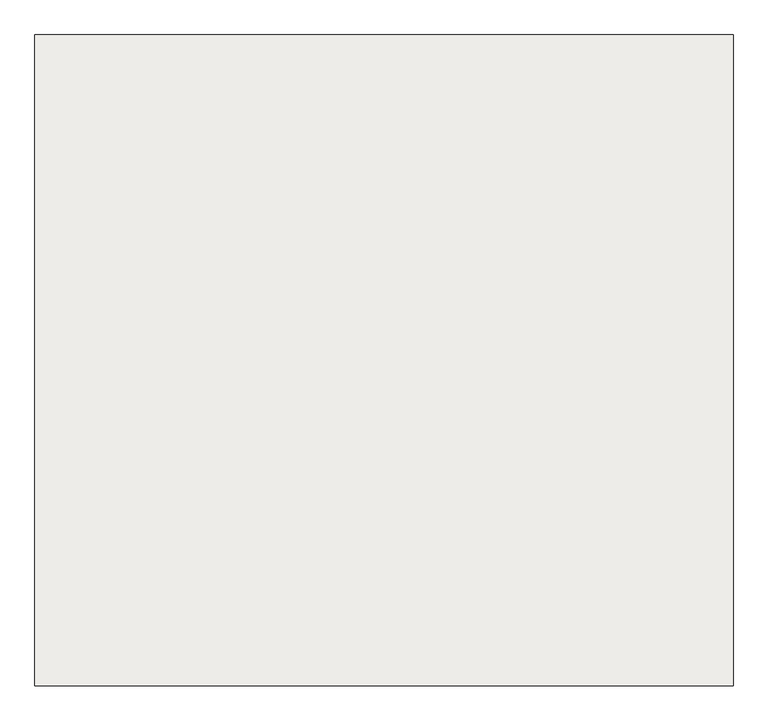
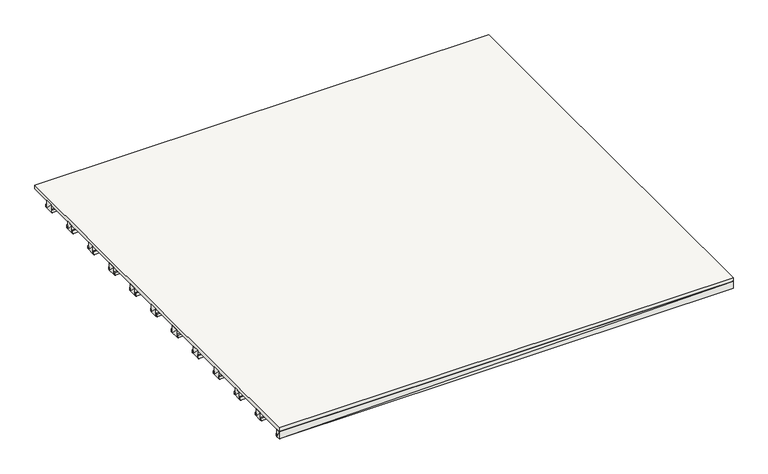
"""IFC4 building model written with IfcOpenShell, lengths in millimetres: slab geometry."""

from ifc_helpers import new_model, si_unit, frame, origin, place, context, project, spatial, polyline, outline, extrude, faceted_brep, source, transform, mapped, element, save


def slab_85f86137(model_context):
    return source(origin(), model_context, "Body", "SolidModel", [
        faceted_brep([(-2377.8, 1258.7, -120.0), (2377.695, 1258.7, -120.0), (2377.695, 1243.7, -120.0), (-2377.8, 1243.7, -120.0), (-2377.8, 1243.7, -90.0), (2377.695, 1243.7, -90.0), (2377.695, 1258.7, -90.0), (-2377.8, 1258.7, -90.0)], [[[0, 1, 2, 3]], [[4, 5, 6, 7]], [[4, 3, 5]], [[3, 2, 5]], [[5, 2, 6]], [[2, 1, 6]], [[6, 1, 7]], [[1, 0, 7]], [[7, 0, 4]], [[0, 3, 4]]]),
        faceted_brep([(-2377.8, -2176.3, -120.0), (2377.695, -2176.3, -120.0), (2377.695, -2216.295, -120.0), (-2377.8, -2216.295, -120.0), (-2377.8, -2216.295, -40.0), (2377.695, -2216.295, -40.0), (2377.695, -2176.3, -40.0), (-2377.8, -2176.3, -40.0)], [[[0, 1, 2, 3]], [[4, 5, 6, 7]], [[4, 3, 5]], [[3, 2, 5]], [[5, 2, 6]], [[2, 1, 6]], [[6, 1, 7]], [[1, 0, 7]], [[7, 0, 4]], [[0, 3, 4]]]),
        faceted_brep([(-2377.8, 103.7, -120.0), (2377.695, 103.7, -120.0), (2377.695, 23.7, -120.0), (-2377.8, 23.7, -120.0), (-2377.8, 23.7, -40.0), (2377.695, 23.7, -40.0), (2377.695, 103.7, -40.0), (-2377.8, 103.7, -40.0)], [[[0, 1, 2, 3]], [[4, 5, 6, 7]], [[4, 3, 5]], [[3, 2, 5]], [[5, 2, 6]], [[2, 1, 6]], [[6, 1, 7]], [[1, 0, 7]], [[7, 0, 4]], [[0, 3, 4]]]),
        faceted_brep([(-2377.8, -641.3, -120.0), (2377.695, -641.3, -120.0), (2377.695, -656.3, -120.0), (-2377.8, -656.3, -120.0), (-2377.8, -656.3, -90.0), (2377.695, -656.3, -90.0), (2377.695, -641.3, -90.0), (-2377.8, -641.3, -90.0)], [[[0, 1, 2, 3]], [[4, 5, 6, 7]], [[4, 3, 5]], [[3, 2, 5]], [[5, 2, 6]], [[2, 1, 6]], [[6, 1, 7]], [[1, 0, 7]], [[7, 0, 4]], [[0, 3, 4]]]),
        faceted_brep([(-2377.8, -736.3, -120.0), (2377.695, -736.3, -120.0), (2377.695, -751.3, -120.0), (-2377.8, -751.3, -120.0), (-2377.8, -751.3, -90.0), (2377.695, -751.3, -90.0), (2377.695, -736.3, -90.0), (-2377.8, -736.3, -90.0)], [[[0, 1, 2, 3]], [[4, 5, 6, 7]], [[4, 3, 5]], [[3, 2, 5]], [[5, 2, 6]], [[2, 1, 6]], [[6, 1, 7]], [[1, 0, 7]], [[7, 0, 4]], [[0, 3, 4]]]),
        faceted_brep([(-2377.8, -1876.3, -120.0), (2377.695, -1876.3, -120.0), (2377.695, -1891.3, -120.0), (-2377.8, -1891.3, -120.0), (-2377.8, -1891.3, -90.0), (2377.695, -1891.3, -90.0), (2377.695, -1876.3, -90.0), (-2377.8, -1876.3, -90.0)], [[[0, 1, 2, 3]], [[4, 5, 6, 7]], [[4, 3, 5]], [[3, 2, 5]], [[5, 2, 6]], [[2, 1, 6]], [[6, 1, 7]], [[1, 0, 7]], [[7, 0, 4]], [[0, 3, 4]]]),
        faceted_brep([(-2377.8, 783.7, -120.0), (2377.695, 783.7, -120.0), (2377.695, 768.7, -120.0), (-2377.8, 768.7, -120.0), (-2377.8, 768.7, -90.0), (2377.695, 768.7, -90.0), (2377.695, 783.7, -90.0), (-2377.8, 783.7, -90.0)], [[[0, 1, 2, 3]], [[4, 5, 6, 7]], [[4, 3, 5]], [[3, 2, 5]], [[5, 2, 6]], [[2, 1, 6]], [[6, 1, 7]], [[1, 0, 7]], [[7, 0, 4]], [[0, 3, 4]]]),
        faceted_brep([(-2377.8, 878.7, -120.0), (2377.695, 878.7, -120.0), (2377.695, 863.7, -120.0), (-2377.8, 863.7, -120.0), (-2377.8, 863.7, -90.0), (2377.695, 863.7, -90.0), (2377.695, 878.7, -90.0), (-2377.8, 878.7, -90.0)], [[[0, 1, 2, 3]], [[4, 5, 6, 7]], [[4, 3, 5]], [[3, 2, 5]], [[5, 2, 6]], [[2, 1, 6]], [[6, 1, 7]], [[1, 0, 7]], [[7, 0, 4]], [[0, 3, 4]]]),
        faceted_brep([(-2377.8, -1401.3, -120.0), (2377.695, -1401.3, -120.0), (2377.695, -1416.3, -120.0), (-2377.8, -1416.3, -120.0), (-2377.8, -1416.3, -90.0), (2377.695, -1416.3, -90.0), (2377.695, -1401.3, -90.0), (-2377.8, -1401.3, -90.0)], [[[0, 1, 2, 3]], [[4, 5, 6, 7]], [[4, 3, 5]], [[3, 2, 5]], [[5, 2, 6]], [[2, 1, 6]], [[6, 1, 7]], [[1, 0, 7]], [[7, 0, 4]], [[0, 3, 4]]]),
        faceted_brep([(-2377.8, 1638.7, -120.0), (2377.695, 1638.7, -120.0), (2377.695, 1623.7, -120.0), (-2377.8, 1623.7, -120.0), (-2377.8, 1623.7, -90.0), (2377.695, 1623.7, -90.0), (2377.695, 1638.7, -90.0), (-2377.8, 1638.7, -90.0)], [[[0, 1, 2, 3]], [[4, 5, 6, 7]], [[4, 3, 5]], [[3, 2, 5]], [[5, 2, 6]], [[2, 1, 6]], [[6, 1, 7]], [[1, 0, 7]], [[7, 0, 4]], [[0, 3, 4]]]),
        faceted_brep([(-2377.8, 483.7, -120.0), (2377.695, 483.7, -120.0), (2377.695, 403.7, -120.0), (-2377.8, 403.7, -120.0), (-2377.8, 403.7, -40.0), (2377.695, 403.7, -40.0), (2377.695, 483.7, -40.0), (-2377.8, 483.7, -40.0)], [[[0, 1, 2, 3]], [[4, 5, 6, 7]], [[4, 3, 5]], [[3, 2, 5]], [[5, 2, 6]], [[2, 1, 6]], [[6, 1, 7]], [[1, 0, 7]], [[7, 0, 4]], [[0, 3, 4]]]),
        faceted_brep([(-2377.8, 498.7, -120.0), (2377.695, 498.7, -120.0), (2377.695, 483.7, -120.0), (-2377.8, 483.7, -120.0), (-2377.8, 483.7, -90.0), (2377.695, 483.7, -90.0), (2377.695, 498.7, -90.0), (-2377.8, 498.7, -90.0)], [[[0, 1, 2, 3]], [[4, 5, 6, 7]], [[4, 3, 5]], [[3, 2, 5]], [[5, 2, 6]], [[2, 1, 6]], [[6, 1, 7]], [[1, 0, 7]], [[7, 0, 4]], [[0, 3, 4]]]),
        faceted_brep([(-2377.8, -1496.3, -120.0), (2377.695, -1496.3, -120.0), (2377.695, -1511.3, -120.0), (-2377.8, -1511.3, -120.0), (-2377.8, -1511.3, -90.0), (2377.695, -1511.3, -90.0), (2377.695, -1496.3, -90.0), (-2377.8, -1496.3, -90.0)], [[[0, 1, 2, 3]], [[4, 5, 6, 7]], [[4, 3, 5]], [[3, 2, 5]], [[5, 2, 6]], [[2, 1, 6]], [[6, 1, 7]], [[1, 0, 7]], [[7, 0, 4]], [[0, 3, 4]]]),
        faceted_brep([(-2377.8, 403.7, -120.0), (2377.695, 403.7, -120.0), (2377.695, 388.7, -120.0), (-2377.8, 388.7, -120.0), (-2377.8, 388.7, -90.0), (2377.695, 388.7, -90.0), (2377.695, 403.7, -90.0), (-2377.8, 403.7, -90.0)], [[[0, 1, 2, 3]], [[4, 5, 6, 7]], [[4, 3, 5]], [[3, 2, 5]], [[5, 2, 6]], [[2, 1, 6]], [[6, 1, 7]], [[1, 0, 7]], [[7, 0, 4]], [[0, 3, 4]]]),
        faceted_brep([(-2377.8, -276.3, -120.0), (2377.695, -276.3, -120.0), (2377.695, -356.3, -120.0), (-2377.8, -356.3, -120.0), (-2377.8, -356.3, -40.0), (2377.695, -356.3, -40.0), (2377.695, -276.3, -40.0), (-2377.8, -276.3, -40.0)], [[[0, 1, 2, 3]], [[4, 5, 6, 7]], [[4, 3, 5]], [[3, 2, 5]], [[5, 2, 6]], [[2, 1, 6]], [[6, 1, 7]], [[1, 0, 7]], [[7, 0, 4]], [[0, 3, 4]]]),
        faceted_brep([(-2377.8, 2003.7, -120.0), (2377.695, 2003.7, -120.0), (2377.695, 1923.7, -120.0), (-2377.8, 1923.7, -120.0), (-2377.8, 1923.7, -40.0), (2377.695, 1923.7, -40.0), (2377.695, 2003.7, -40.0), (-2377.8, 2003.7, -40.0)], [[[0, 1, 2, 3]], [[4, 5, 6, 7]], [[4, 3, 5]], [[3, 2, 5]], [[5, 2, 6]], [[2, 1, 6]], [[6, 1, 7]], [[1, 0, 7]], [[7, 0, 4]], [[0, 3, 4]]]),
        faceted_brep([(-2377.8, -356.3, -120.0), (2377.695, -356.3, -120.0), (2377.695, -371.3, -120.0), (-2377.8, -371.3, -120.0), (-2377.8, -371.3, -90.0), (2377.695, -371.3, -90.0), (2377.695, -356.3, -90.0), (-2377.8, -356.3, -90.0)], [[[0, 1, 2, 3]], [[4, 5, 6, 7]], [[4, 3, 5]], [[3, 2, 5]], [[5, 2, 6]], [[2, 1, 6]], [[6, 1, 7]], [[1, 0, 7]], [[7, 0, 4]], [[0, 3, 4]]]),
        faceted_brep([(-2377.8, 1543.7, -120.0), (2377.695, 1543.7, -120.0), (2377.695, 1528.7, -120.0), (-2377.8, 1528.7, -120.0), (-2377.8, 1528.7, -90.0), (2377.695, 1528.7, -90.0), (2377.695, 1543.7, -90.0), (-2377.8, 1543.7, -90.0)], [[[0, 1, 2, 3]], [[4, 5, 6, 7]], [[4, 3, 5]], [[3, 2, 5]], [[5, 2, 6]], [[2, 1, 6]], [[6, 1, 7]], [[1, 0, 7]], [[7, 0, 4]], [[0, 3, 4]]]),
        faceted_brep([(-2377.8, -1781.3, -120.0), (2377.695, -1781.3, -120.0), (2377.695, -1796.3, -120.0), (-2377.8, -1796.3, -120.0), (-2377.8, -1796.3, -90.0), (2377.695, -1796.3, -90.0), (2377.695, -1781.3, -90.0), (-2377.8, -1781.3, -90.0)], [[[0, 1, 2, 3]], [[4, 5, 6, 7]], [[4, 3, 5]], [[3, 2, 5]], [[5, 2, 6]], [[2, 1, 6]], [[6, 1, 7]], [[1, 0, 7]], [[7, 0, 4]], [[0, 3, 4]]]),
        faceted_brep([(-2377.8, -656.3, -120.0), (2377.695, -656.3, -120.0), (2377.695, -736.3, -120.0), (-2377.8, -736.3, -120.0), (-2377.8, -736.3, -40.0), (2377.695, -736.3, -40.0), (2377.695, -656.3, -40.0), (-2377.8, -656.3, -40.0)], [[[0, 1, 2, 3]], [[4, 5, 6, 7]], [[4, 3, 5]], [[3, 2, 5]], [[5, 2, 6]], [[2, 1, 6]], [[6, 1, 7]], [[1, 0, 7]], [[7, 0, 4]], [[0, 3, 4]]]),
        faceted_brep([(-2377.8, -261.3, -120.0), (2377.695, -261.3, -120.0), (2377.695, -276.3, -120.0), (-2377.8, -276.3, -120.0), (-2377.8, -276.3, -90.0), (2377.695, -276.3, -90.0), (2377.695, -261.3, -90.0), (-2377.8, -261.3, -90.0)], [[[0, 1, 2, 3]], [[4, 5, 6, 7]], [[4, 3, 5]], [[3, 2, 5]], [[5, 2, 6]], [[2, 1, 6]], [[6, 1, 7]], [[1, 0, 7]], [[7, 0, 4]], [[0, 3, 4]]]),
        faceted_brep([(-2377.8, -1416.3, -120.0), (2377.695, -1416.3, -120.0), (2377.695, -1496.3, -120.0), (-2377.8, -1496.3, -120.0), (-2377.8, -1496.3, -40.0), (2377.695, -1496.3, -40.0), (2377.695, -1416.3, -40.0), (-2377.8, -1416.3, -40.0)], [[[0, 1, 2, 3]], [[4, 5, 6, 7]], [[4, 3, 5]], [[3, 2, 5]], [[5, 2, 6]], [[2, 1, 6]], [[6, 1, 7]], [[1, 0, 7]], [[7, 0, 4]], [[0, 3, 4]]]),
        faceted_brep([(-2377.8, 1623.7, -120.0), (2377.695, 1623.7, -120.0), (2377.695, 1543.7, -120.0), (-2377.8, 1543.7, -120.0), (-2377.8, 1543.7, -40.0), (2377.695, 1543.7, -40.0), (2377.695, 1623.7, -40.0), (-2377.8, 1623.7, -40.0)], [[[0, 1, 2, 3]], [[4, 5, 6, 7]], [[4, 3, 5]], [[3, 2, 5]], [[5, 2, 6]], [[2, 1, 6]], [[6, 1, 7]], [[1, 0, 7]], [[7, 0, 4]], [[0, 3, 4]]]),
        faceted_brep([(-2377.8, -1116.3, -120.0), (2377.695, -1116.3, -120.0), (2377.695, -1131.3, -120.0), (-2377.8, -1131.3, -120.0), (-2377.8, -1131.3, -90.0), (2377.695, -1131.3, -90.0), (2377.695, -1116.3, -90.0), (-2377.8, -1116.3, -90.0)], [[[0, 1, 2, 3]], [[4, 5, 6, 7]], [[4, 3, 5]], [[3, 2, 5]], [[5, 2, 6]], [[2, 1, 6]], [[6, 1, 7]], [[1, 0, 7]], [[7, 0, 4]], [[0, 3, 4]]]),
        faceted_brep([(-2377.8, 1923.7, -120.0), (2377.695, 1923.7, -120.0), (2377.695, 1908.7, -120.0), (-2377.8, 1908.7, -120.0), (-2377.8, 1908.7, -90.0), (2377.695, 1908.7, -90.0), (2377.695, 1923.7, -90.0), (-2377.8, 1923.7, -90.0)], [[[0, 1, 2, 3]], [[4, 5, 6, 7]], [[4, 3, 5]], [[3, 2, 5]], [[5, 2, 6]], [[2, 1, 6]], [[6, 1, 7]], [[1, 0, 7]], [[7, 0, 4]], [[0, 3, 4]]]),
        faceted_brep([(-2377.8, 2018.7, -120.0), (2377.695, 2018.7, -120.0), (2377.695, 2003.7, -120.0), (-2377.8, 2003.7, -120.0), (-2377.8, 2003.7, -90.0), (2377.695, 2003.7, -90.0), (2377.695, 2018.7, -90.0), (-2377.8, 2018.7, -90.0)], [[[0, 1, 2, 3]], [[4, 5, 6, 7]], [[4, 3, 5]], [[3, 2, 5]], [[5, 2, 6]], [[2, 1, 6]], [[6, 1, 7]], [[1, 0, 7]], [[7, 0, 4]], [[0, 3, 4]]]),
        faceted_brep([(-2377.8, -1021.3, -120.0), (2377.695, -1021.3, -120.0), (2377.695, -1036.3, -120.0), (-2377.8, -1036.3, -120.0), (-2377.8, -1036.3, -90.0), (2377.695, -1036.3, -90.0), (2377.695, -1021.3, -90.0), (-2377.8, -1021.3, -90.0)], [[[0, 1, 2, 3]], [[4, 5, 6, 7]], [[4, 3, 5]], [[3, 2, 5]], [[5, 2, 6]], [[2, 1, 6]], [[6, 1, 7]], [[1, 0, 7]], [[7, 0, 4]], [[0, 3, 4]]]),
        faceted_brep([(-2377.8, 1243.7, -120.0), (2377.695, 1243.7, -120.0), (2377.695, 1163.7, -120.0), (-2377.8, 1163.7, -120.0), (-2377.8, 1163.7, -40.0), (2377.695, 1163.7, -40.0), (2377.695, 1243.7, -40.0), (-2377.8, 1243.7, -40.0)], [[[0, 1, 2, 3]], [[4, 5, 6, 7]], [[4, 3, 5]], [[3, 2, 5]], [[5, 2, 6]], [[2, 1, 6]], [[6, 1, 7]], [[1, 0, 7]], [[7, 0, 4]], [[0, 3, 4]]]),
        faceted_brep([(-2377.8, 118.7, -120.0), (2377.695, 118.7, -120.0), (2377.695, 103.7, -120.0), (-2377.8, 103.7, -120.0), (-2377.8, 103.7, -90.0), (2377.695, 103.7, -90.0), (2377.695, 118.7, -90.0), (-2377.8, 118.7, -90.0)], [[[0, 1, 2, 3]], [[4, 5, 6, 7]], [[4, 3, 5]], [[3, 2, 5]], [[5, 2, 6]], [[2, 1, 6]], [[6, 1, 7]], [[1, 0, 7]], [[7, 0, 4]], [[0, 3, 4]]]),
        faceted_brep([(-2377.8, 23.7, -120.0), (2377.695, 23.7, -120.0), (2377.695, 8.7, -120.0), (-2377.8, 8.7, -120.0), (-2377.8, 8.7, -90.0), (2377.695, 8.7, -90.0), (2377.695, 23.7, -90.0), (-2377.8, 23.7, -90.0)], [[[0, 1, 2, 3]], [[4, 5, 6, 7]], [[4, 3, 5]], [[3, 2, 5]], [[5, 2, 6]], [[2, 1, 6]], [[6, 1, 7]], [[1, 0, 7]], [[7, 0, 4]], [[0, 3, 4]]]),
        faceted_brep([(-2377.8, -1796.3, -120.0), (2377.695, -1796.3, -120.0), (2377.695, -1876.3, -120.0), (-2377.8, -1876.3, -120.0), (-2377.8, -1876.3, -40.0), (2377.695, -1876.3, -40.0), (2377.695, -1796.3, -40.0), (-2377.8, -1796.3, -40.0)], [[[0, 1, 2, 3]], [[4, 5, 6, 7]], [[4, 3, 5]], [[3, 2, 5]], [[5, 2, 6]], [[2, 1, 6]], [[6, 1, 7]], [[1, 0, 7]], [[7, 0, 4]], [[0, 3, 4]]]),
        faceted_brep([(-2377.8, 1163.7, -120.0), (2377.695, 1163.7, -120.0), (2377.695, 1148.7, -120.0), (-2377.8, 1148.7, -120.0), (-2377.8, 1148.7, -90.0), (2377.695, 1148.7, -90.0), (2377.695, 1163.7, -90.0), (-2377.8, 1163.7, -90.0)], [[[0, 1, 2, 3]], [[4, 5, 6, 7]], [[4, 3, 5]], [[3, 2, 5]], [[5, 2, 6]], [[2, 1, 6]], [[6, 1, 7]], [[1, 0, 7]], [[7, 0, 4]], [[0, 3, 4]]]),
        faceted_brep([(-2377.8, -1036.3, -120.0), (2377.695, -1036.3, -120.0), (2377.695, -1116.3, -120.0), (-2377.8, -1116.3, -120.0), (-2377.8, -1116.3, -40.0), (2377.695, -1116.3, -40.0), (2377.695, -1036.3, -40.0), (-2377.8, -1036.3, -40.0)], [[[0, 1, 2, 3]], [[4, 5, 6, 7]], [[4, 3, 5]], [[3, 2, 5]], [[5, 2, 6]], [[2, 1, 6]], [[6, 1, 7]], [[1, 0, 7]], [[7, 0, 4]], [[0, 3, 4]]]),
        faceted_brep([(-2377.8, -2161.3, -120.0), (2377.695, -2161.3, -120.0), (2377.695, -2176.3, -120.0), (-2377.8, -2176.3, -120.0), (-2377.8, -2176.3, -90.0), (2377.695, -2176.3, -90.0), (2377.695, -2161.3, -90.0), (-2377.8, -2161.3, -90.0)], [[[0, 1, 2, 3]], [[4, 5, 6, 7]], [[4, 3, 5]], [[3, 2, 5]], [[5, 2, 6]], [[2, 1, 6]], [[6, 1, 7]], [[1, 0, 7]], [[7, 0, 4]], [[0, 3, 4]]]),
        faceted_brep([(-2377.8, 863.7, -120.0), (2377.695, 863.7, -120.0), (2377.695, 783.7, -120.0), (-2377.8, 783.7, -120.0), (-2377.8, 783.7, -40.0), (2377.695, 783.7, -40.0), (2377.695, 863.7, -40.0), (-2377.8, 863.7, -40.0)], [[[0, 1, 2, 3]], [[4, 5, 6, 7]], [[4, 3, 5]], [[3, 2, 5]], [[5, 2, 6]], [[2, 1, 6]], [[6, 1, 7]], [[1, 0, 7]], [[7, 0, 4]], [[0, 3, 4]]]),
        extrude(outline(polyline([(2377.8, 1098.7), (2377.69, -2216.3), (-2377.8, -2216.29), (-2377.8, 2216.3), (2377.7, 2216.3), (2377.8, 1098.7)])), frame((0.0, 0.0, -40.0), z_axis=(0.0, 0.0, 1.0), x_axis=(1.0, 0.0, 0.0)), (0.0, 0.0, 1.0), 40.0),
    ])


if __name__ == "__main__":
    model = new_model("IFC4")
    model_context = context("Model", 3, world=origin())
    ifc_project = project(units=[si_unit("LENGTHUNIT", "METRE", prefix="MILLI")], contexts=[model_context])
    site = spatial("IfcSite", under=ifc_project)
    building = spatial("IfcBuilding", under=site)
    placement = place(None, origin())
    slab_shape = slab_85f86137(model_context)
    element("IfcSlab", 1, at=placement, inside=building, context=model_context, shape_type="MappedRepresentation", body=[
        mapped(slab_shape, transform((0.0, 0.0, 0.0), x_axis=(1.0, 0.0, 0.0), y_axis=(0.0, 1.0, 0.0), z_axis=(0.0, 0.0, 1.0))),
    ])
    save(model, "model.ifc")
